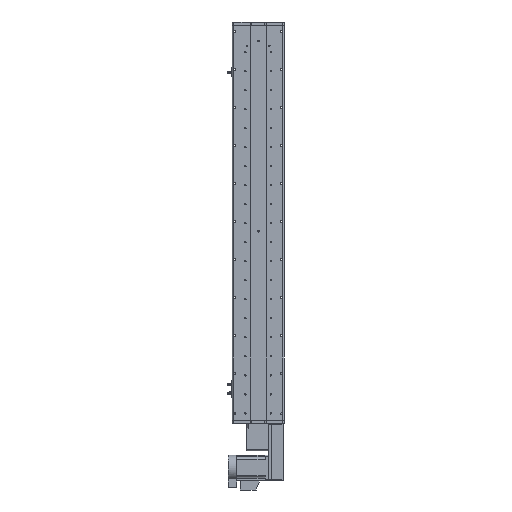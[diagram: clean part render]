
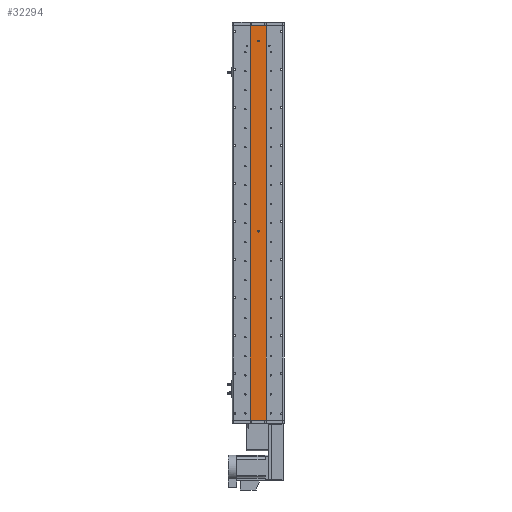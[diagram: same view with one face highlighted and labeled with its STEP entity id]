
A CAD part, front view. The second image highlights one B-rep face of the part: STEP entity #32294.
In plain terms, the highlighted planar face has unit normal (0, -1, 0).
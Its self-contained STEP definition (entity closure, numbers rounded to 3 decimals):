
#557 = FACE_OUTER_BOUND ( 'NONE', #37224, .T. ) ;
#1342 = VERTEX_POINT ( 'NONE', #36373 ) ;
#2341 = DIRECTION ( 'NONE',  ( 0., 0., -1. ) ) ;
#3291 = EDGE_CURVE ( 'NONE', #26411, #1342, #28761, .T. ) ;
#3915 = CIRCLE ( 'NONE', #56030, 3. ) ;
#4719 = DIRECTION ( 'NONE',  ( 0., 0., -1. ) ) ;
#4885 = EDGE_CURVE ( 'NONE', #30524, #51052, #23841, .T. ) ;
#5153 = CARTESIAN_POINT ( 'NONE',  ( -25., 1., 623.5 ) ) ;
#6844 = EDGE_CURVE ( 'NONE', #51052, #30524, #3915, .T. ) ;
#8362 = LINE ( 'NONE', #5153, #21794 ) ;
#9728 = DIRECTION ( 'NONE',  ( 1., 0., 0. ) ) ;
#13518 = LINE ( 'NONE', #19693, #38764 ) ;
#13728 = ORIENTED_EDGE ( 'NONE', *, *, #4885, .F. ) ;
#15243 = EDGE_LOOP ( 'NONE', ( #22161, #13728 ) ) ;
#16660 = CARTESIAN_POINT ( 'NONE',  ( 25., 1., 623.5 ) ) ;
#17743 = CARTESIAN_POINT ( 'NONE',  ( 0., 1., 573.5 ) ) ;
#19693 = CARTESIAN_POINT ( 'NONE',  ( 25., 1., 623.5 ) ) ;
#20404 = ORIENTED_EDGE ( 'NONE', *, *, #52858, .T. ) ;
#20529 = DIRECTION ( 'NONE',  ( 1., 0., 0. ) ) ;
#21794 = VECTOR ( 'NONE', #4719, 1000. ) ;
#21845 = EDGE_LOOP ( 'NONE', ( #65227, #49306 ) ) ;
#22161 = ORIENTED_EDGE ( 'NONE', *, *, #6844, .F. ) ;
#22827 = DIRECTION ( 'NONE',  ( 0., 0., -1. ) ) ;
#23286 = CARTESIAN_POINT ( 'NONE',  ( 0., 1., -26.5 ) ) ;
#23841 = CIRCLE ( 'NONE', #65245, 3. ) ;
#24622 = CIRCLE ( 'NONE', #33275, 3. ) ;
#24912 = CARTESIAN_POINT ( 'NONE',  ( 25., 1., 623.5 ) ) ;
#25220 = DIRECTION ( 'NONE',  ( 0., -1., 0. ) ) ;
#26411 = VERTEX_POINT ( 'NONE', #39008 ) ;
#26444 = VERTEX_POINT ( 'NONE', #44349 ) ;
#28358 = DIRECTION ( 'NONE',  ( 0., 0., -1. ) ) ;
#28761 = LINE ( 'NONE', #45687, #40547 ) ;
#29740 = PLANE ( 'NONE',  #36089 ) ;
#29948 = DIRECTION ( 'NONE',  ( 0., 0., 1. ) ) ;
#30524 = VERTEX_POINT ( 'NONE', #33294 ) ;
#30883 = VECTOR ( 'NONE', #48042, 1000. ) ;
#32294 = ADVANCED_FACE ( 'NONE', ( #64561, #37664, #557 ), #29740, .F. ) ;
#32631 = DIRECTION ( 'NONE',  ( 0., -1., 0. ) ) ;
#33275 = AXIS2_PLACEMENT_3D ( 'NONE', #62871, #32631, #2341 ) ;
#33294 = CARTESIAN_POINT ( 'NONE',  ( 0., 1., 576.5 ) ) ;
#33921 = CARTESIAN_POINT ( 'NONE',  ( 0., 1., -29.5 ) ) ;
#34729 = VERTEX_POINT ( 'NONE', #47106 ) ;
#36089 = AXIS2_PLACEMENT_3D ( 'NONE', #24912, #60223, #29948 ) ;
#36373 = CARTESIAN_POINT ( 'NONE',  ( 25., 1., -623.5 ) ) ;
#37224 = EDGE_LOOP ( 'NONE', ( #61653, #54074, #52732, #20404 ) ) ;
#37664 = FACE_BOUND ( 'NONE', #15243, .T. ) ;
#37739 = CIRCLE ( 'NONE', #38706, 3. ) ;
#38706 = AXIS2_PLACEMENT_3D ( 'NONE', #23286, #58617, #28358 ) ;
#38764 = VECTOR ( 'NONE', #9728, 1000. ) ;
#39008 = CARTESIAN_POINT ( 'NONE',  ( -25., 1., -623.5 ) ) ;
#40547 = VECTOR ( 'NONE', #20529, 1000. ) ;
#40963 = EDGE_CURVE ( 'NONE', #34729, #52253, #37739, .T. ) ;
#42491 = VERTEX_POINT ( 'NONE', #16660 ) ;
#42689 = CARTESIAN_POINT ( 'NONE',  ( 25., 1., 623.5 ) ) ;
#44326 = LINE ( 'NONE', #42689, #30883 ) ;
#44349 = CARTESIAN_POINT ( 'NONE',  ( -25., 1., 623.5 ) ) ;
#45687 = CARTESIAN_POINT ( 'NONE',  ( 25., 1., -623.5 ) ) ;
#47106 = CARTESIAN_POINT ( 'NONE',  ( 0., 1., -23.5 ) ) ;
#47918 = EDGE_CURVE ( 'NONE', #26444, #42491, #13518, .T. ) ;
#48042 = DIRECTION ( 'NONE',  ( 0., 0., -1. ) ) ;
#49306 = ORIENTED_EDGE ( 'NONE', *, *, #40963, .F. ) ;
#49841 = EDGE_CURVE ( 'NONE', #42491, #1342, #44326, .T. ) ;
#51052 = VERTEX_POINT ( 'NONE', #62147 ) ;
#52253 = VERTEX_POINT ( 'NONE', #33921 ) ;
#52732 = ORIENTED_EDGE ( 'NONE', *, *, #47918, .F. ) ;
#52858 = EDGE_CURVE ( 'NONE', #26444, #26411, #8362, .T. ) ;
#53036 = DIRECTION ( 'NONE',  ( 0., -1., 0. ) ) ;
#54074 = ORIENTED_EDGE ( 'NONE', *, *, #49841, .F. ) ;
#55419 = CARTESIAN_POINT ( 'NONE',  ( 0., 1., 573.5 ) ) ;
#56030 = AXIS2_PLACEMENT_3D ( 'NONE', #55419, #25220, #60536 ) ;
#58617 = DIRECTION ( 'NONE',  ( 0., -1., 0. ) ) ;
#60223 = DIRECTION ( 'NONE',  ( 0., 1., 0. ) ) ;
#60536 = DIRECTION ( 'NONE',  ( 0., 0., -1. ) ) ;
#61653 = ORIENTED_EDGE ( 'NONE', *, *, #3291, .T. ) ;
#61697 = EDGE_CURVE ( 'NONE', #52253, #34729, #24622, .T. ) ;
#62147 = CARTESIAN_POINT ( 'NONE',  ( 0., 1., 570.5 ) ) ;
#62871 = CARTESIAN_POINT ( 'NONE',  ( 0., 1., -26.5 ) ) ;
#64561 = FACE_BOUND ( 'NONE', #21845, .T. ) ;
#65227 = ORIENTED_EDGE ( 'NONE', *, *, #61697, .F. ) ;
#65245 = AXIS2_PLACEMENT_3D ( 'NONE', #17743, #53036, #22827 ) ;
